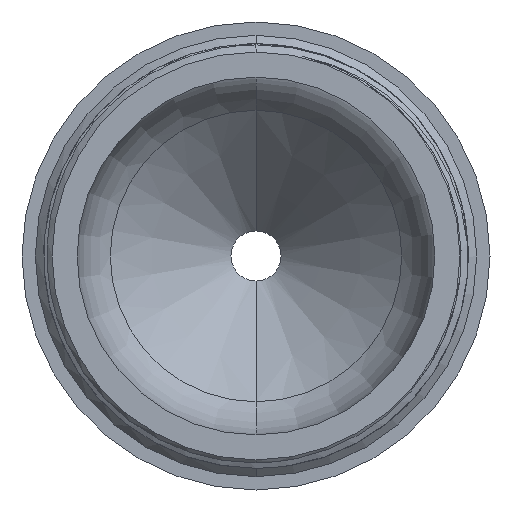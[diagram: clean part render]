
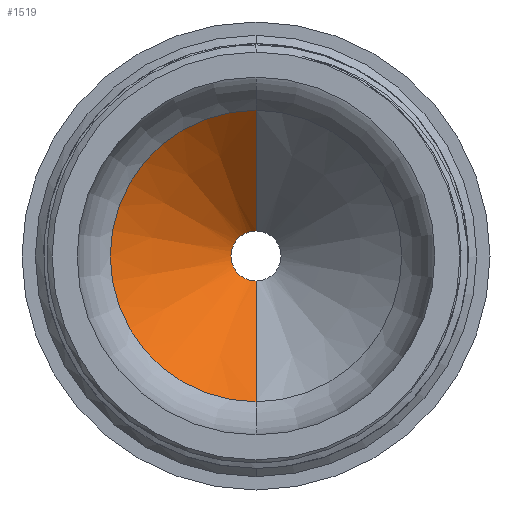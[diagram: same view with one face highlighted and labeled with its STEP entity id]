
A CAD part, front view. The second image highlights one B-rep face of the part: STEP entity #1519.
In plain terms, the highlighted conical face has half-angle 45 degrees and reference radius 1.5 mm.
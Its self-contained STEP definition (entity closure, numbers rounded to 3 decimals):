
#237 = CARTESIAN_POINT ( 'NONE',  ( 0., 4.78, 0. ) ) ;
#442 = FACE_OUTER_BOUND ( 'NONE', #5553, .T. ) ;
#482 = DIRECTION ( 'NONE',  ( 0., -1., 0. ) ) ;
#857 = VERTEX_POINT ( 'NONE', #2687 ) ;
#1093 = DIRECTION ( 'NONE',  ( 0., -1., 0. ) ) ;
#1287 = VECTOR ( 'NONE', #5053, 1000. ) ;
#1365 = CARTESIAN_POINT ( 'NONE',  ( 0., 12., 1.5 ) ) ;
#1519 = ADVANCED_FACE ( 'NONE', ( #442 ), #2010, .F. ) ;
#1562 = AXIS2_PLACEMENT_3D ( 'NONE', #237, #1093, #3675 ) ;
#1598 = CARTESIAN_POINT ( 'NONE',  ( 0., 12., 1.5 ) ) ;
#2010 = CONICAL_SURFACE ( 'NONE', #3455, 1.5, 0.785 ) ;
#2113 = EDGE_CURVE ( 'NONE', #4198, #857, #3994, .T. ) ;
#2203 = CARTESIAN_POINT ( 'NONE',  ( 0., 12., 0. ) ) ;
#2306 = ORIENTED_EDGE ( 'NONE', *, *, #4477, .T. ) ;
#2470 = VECTOR ( 'NONE', #3429, 1000. ) ;
#2471 = LINE ( 'NONE', #5592, #2470 ) ;
#2687 = CARTESIAN_POINT ( 'NONE',  ( 0., 12., -1.5 ) ) ;
#2967 = CARTESIAN_POINT ( 'NONE',  ( 0., 12., 0. ) ) ;
#3093 = EDGE_CURVE ( 'NONE', #3427, #5452, #5640, .T. ) ;
#3427 = VERTEX_POINT ( 'NONE', #4414 ) ;
#3429 = DIRECTION ( 'NONE',  ( 0., -0.707, -0.707 ) ) ;
#3455 = AXIS2_PLACEMENT_3D ( 'NONE', #2967, #4321, #4688 ) ;
#3675 = DIRECTION ( 'NONE',  ( 0., 0., -1. ) ) ;
#3994 = CIRCLE ( 'NONE', #5369, 1.5 ) ;
#4198 = VERTEX_POINT ( 'NONE', #1365 ) ;
#4222 = ORIENTED_EDGE ( 'NONE', *, *, #3093, .T. ) ;
#4321 = DIRECTION ( 'NONE',  ( 0., -1., 0. ) ) ;
#4414 = CARTESIAN_POINT ( 'NONE',  ( 0., 4.78, 8.72 ) ) ;
#4450 = EDGE_CURVE ( 'NONE', #857, #5452, #2471, .T. ) ;
#4477 = EDGE_CURVE ( 'NONE', #4198, #3427, #5483, .T. ) ;
#4681 = CARTESIAN_POINT ( 'NONE',  ( 0., 4.78, -8.72 ) ) ;
#4688 = DIRECTION ( 'NONE',  ( 0., 0., -1. ) ) ;
#5053 = DIRECTION ( 'NONE',  ( 0., -0.707, 0.707 ) ) ;
#5177 = DIRECTION ( 'NONE',  ( 0., 0., -1. ) ) ;
#5269 = ORIENTED_EDGE ( 'NONE', *, *, #2113, .F. ) ;
#5369 = AXIS2_PLACEMENT_3D ( 'NONE', #2203, #482, #5177 ) ;
#5452 = VERTEX_POINT ( 'NONE', #4681 ) ;
#5483 = LINE ( 'NONE', #1598, #1287 ) ;
#5553 = EDGE_LOOP ( 'NONE', ( #5269, #2306, #4222, #5632 ) ) ;
#5592 = CARTESIAN_POINT ( 'NONE',  ( 0., 12., -1.5 ) ) ;
#5632 = ORIENTED_EDGE ( 'NONE', *, *, #4450, .F. ) ;
#5640 = CIRCLE ( 'NONE', #1562, 8.72 ) ;
